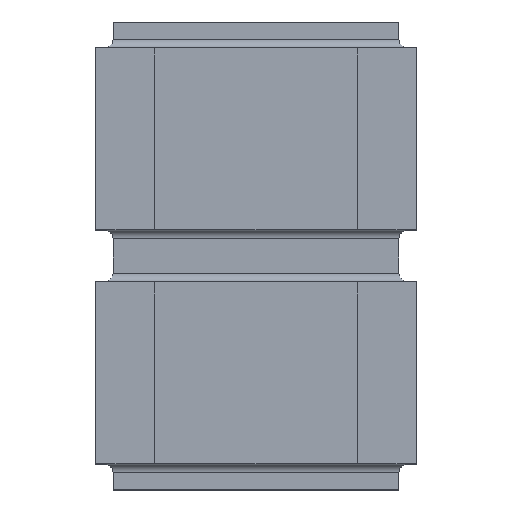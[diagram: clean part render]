
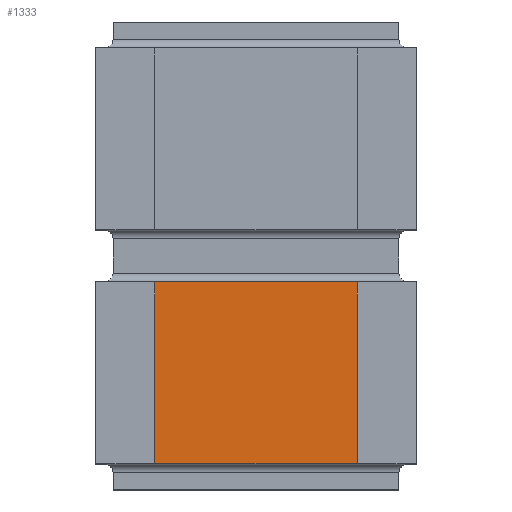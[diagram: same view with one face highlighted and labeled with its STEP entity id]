
A CAD part, top view. The second image highlights one B-rep face of the part: STEP entity #1333.
In plain terms, the highlighted planar face has unit normal (0, 0, 1).
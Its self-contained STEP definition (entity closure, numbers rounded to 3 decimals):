
#71=FACE_OUTER_BOUND('',#154,.T.);
#154=EDGE_LOOP('',(#931,#932,#933,#934));
#237=LINE('',#1928,#409);
#249=LINE('',#1957,#421);
#252=LINE('',#1963,#424);
#253=LINE('',#1964,#425);
#409=VECTOR('',#1553,10.);
#421=VECTOR('',#1585,10.);
#424=VECTOR('',#1590,10.);
#425=VECTOR('',#1591,10.);
#581=VERTEX_POINT('',#1921);
#584=VERTEX_POINT('',#1926);
#591=VERTEX_POINT('',#1956);
#593=VERTEX_POINT('',#1962);
#705=EDGE_CURVE('',#581,#584,#237,.T.);
#719=EDGE_CURVE('',#591,#584,#249,.T.);
#722=EDGE_CURVE('',#593,#591,#252,.T.);
#723=EDGE_CURVE('',#581,#593,#253,.T.);
#931=ORIENTED_EDGE('',*,*,#719,.F.);
#932=ORIENTED_EDGE('',*,*,#722,.F.);
#933=ORIENTED_EDGE('',*,*,#723,.F.);
#934=ORIENTED_EDGE('',*,*,#705,.T.);
#1262=PLANE('',#1445);
#1333=ADVANCED_FACE('',(#71),#1262,.T.);
#1445=AXIS2_PLACEMENT_3D('',#1961,#1588,#1589);
#1553=DIRECTION('',(0.,-1.,0.));
#1585=DIRECTION('',(-1.,0.,0.));
#1588=DIRECTION('center_axis',(0.,0.,
1.));
#1589=DIRECTION('ref_axis',(1.,0.,0.));
#1590=DIRECTION('',(0.,-1.,0.));
#1591=DIRECTION('',(1.,0.,0.));
#1921=CARTESIAN_POINT('',(0.005,1.2,0.435));
#1926=CARTESIAN_POINT('',(0.005,0.15,0.435));
#1928=CARTESIAN_POINT('',(0.005,1.2,0.435));
#1956=CARTESIAN_POINT('',(1.845,0.15,0.435));
#1957=CARTESIAN_POINT('',(1.845,0.15,0.435));
#1961=CARTESIAN_POINT('Origin',(0.925,1.2,0.435));
#1962=CARTESIAN_POINT('',(1.845,1.2,0.435));
#1963=CARTESIAN_POINT('',(1.845,1.2,0.435));
#1964=CARTESIAN_POINT('',(0.005,1.2,0.435));
